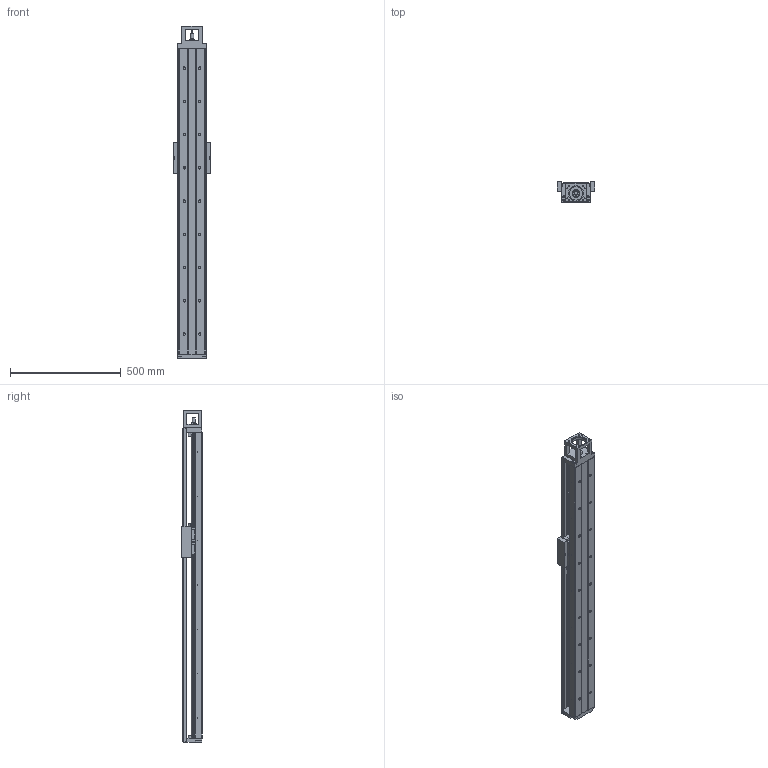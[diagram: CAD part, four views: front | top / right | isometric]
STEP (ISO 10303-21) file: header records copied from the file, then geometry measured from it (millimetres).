
FILE_DESCRIPTION(/* description */ (''),/* implementation_level */ '2;1');
FILE_NAME(/* name */ 'TKK130-1380A1F0C_stp.stp',/* time_stamp */ '2017-08-18T10:29:28+08:00',/* author */ (''),/* organization */ (''),/* preprocessor_version */ 'ST-DEVELOPER v15',/* originating_system */ 'SIEMENS PLM Software NX 8.5',/* authorisation */ '');
FILE_SCHEMA (('AUTOMOTIVE_DESIGN { 1 0 10303 214 3 1 1 1 }'));
Length unit declared in the file: millimetre
Products named in the file (3): 022; 011; TKK130-1380A1F0C_stp
Assembly tree (2 placements, depth 2):
  TKK130-1380A1F0C_stp
    011
    022
Bounding box: 170 x 92 x 1498 mm (x, y, z)
Volume: 6580146.3 mm3; surface area: 1401762.9 mm2
Topology: 2 solids, 46 shells, 1157 faces, 3037 edges, 1963 vertices
Faces by surface type: plane 630, cylinder 354, cone 133, extrusion 33, bspline 6, torus 1
Full cylindrical faces by diameter (mm): 2.1 x14, 2.5 x8, 3.3 x60, 4.5 x20, 5 x23, 6.6 x10, 6.8 x12, 7 x2, 8 x16, 8.5 x4, 9 x8, 11 x26, 12 x4, 15 x1, 16.3 x1, 17 x22, 17.5 x4, 25 x1, 35 x2, 40 x3, 60.03 x1, 70.03 x1
Entity records: 34402 total; most frequent: CARTESIAN_POINT 7296, DIRECTION 5321, ORIENTED_EDGE 4862, EDGE_CURVE 2431, AXIS2_PLACEMENT_3D 1891, VERTEX_POINT 1838, EDGE_LOOP 1643, VECTOR 1539
